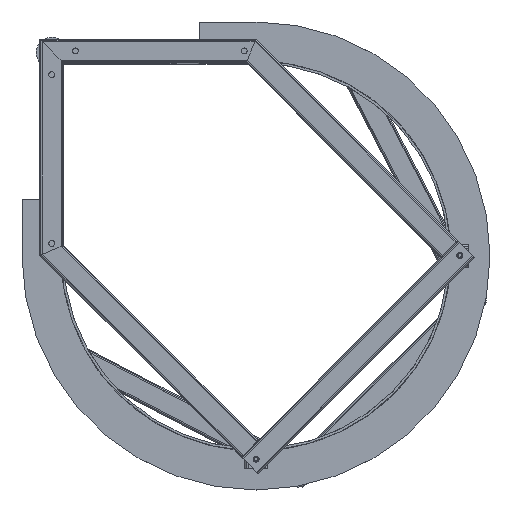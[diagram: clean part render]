
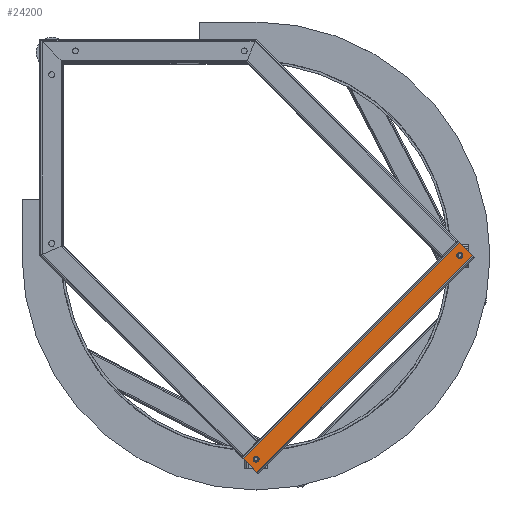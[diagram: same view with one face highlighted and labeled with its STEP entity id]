
A CAD part, top view. The second image highlights one B-rep face of the part: STEP entity #24200.
In plain terms, the highlighted planar face has unit normal (0, 0, 1).
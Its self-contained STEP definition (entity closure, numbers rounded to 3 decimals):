
#341=FACE_BOUND('',#3044,.T.);
#342=FACE_BOUND('',#3045,.T.);
#467=PLANE('',#25580);
#1705=FACE_OUTER_BOUND('',#3043,.T.);
#3043=EDGE_LOOP('',(#15766,#15767,#15768,#15769));
#3044=EDGE_LOOP('',(#15770));
#3045=EDGE_LOOP('',(#15771));
#4509=LINE('',#34891,#6801);
#4510=LINE('',#34895,#6802);
#4511=LINE('',#34897,#6803);
#4512=LINE('',#34898,#6804);
#6801=VECTOR('',#27984,10.);
#6802=VECTOR('',#27989,10.);
#6803=VECTOR('',#27990,10.);
#6804=VECTOR('',#27991,10.);
#9050=CIRCLE('',#25542,5.);
#9054=CIRCLE('',#25548,5.);
#10020=VERTEX_POINT('',#34786);
#10024=VERTEX_POINT('',#34798);
#10054=VERTEX_POINT('',#34888);
#10055=VERTEX_POINT('',#34890);
#10056=VERTEX_POINT('',#34894);
#10057=VERTEX_POINT('',#34896);
#12131=EDGE_CURVE('',#10020,#10020,#9050,.T.);
#12137=EDGE_CURVE('',#10024,#10024,#9054,.T.);
#12184=EDGE_CURVE('',#10055,#10054,#4509,.T.);
#12186=EDGE_CURVE('',#10054,#10056,#4510,.T.);
#12187=EDGE_CURVE('',#10057,#10056,#4511,.T.);
#12188=EDGE_CURVE('',#10057,#10055,#4512,.T.);
#15766=ORIENTED_EDGE('',*,*,#12186,.T.);
#15767=ORIENTED_EDGE('',*,*,#12187,.F.);
#15768=ORIENTED_EDGE('',*,*,#12188,.T.);
#15769=ORIENTED_EDGE('',*,*,#12184,.T.);
#15770=ORIENTED_EDGE('',*,*,#12131,.T.);
#15771=ORIENTED_EDGE('',*,*,#12137,.T.);
#24200=ADVANCED_FACE('',(#1705,#341,#342),#467,.T.);
#25542=AXIS2_PLACEMENT_3D('',#34787,#27878,#27879);
#25548=AXIS2_PLACEMENT_3D('',#34799,#27892,#27893);
#25580=AXIS2_PLACEMENT_3D('',#34893,#27987,#27988);
#27878=DIRECTION('center_axis',(0.,0.,
-1.));
#27879=DIRECTION('ref_axis',(0.707,-0.707,0.));
#27892=DIRECTION('center_axis',(0.,0.,
-1.));
#27893=DIRECTION('ref_axis',(0.707,-0.707,0.));
#27984=DIRECTION('',(0.707,0.707,0.));
#27987=DIRECTION('center_axis',(0.,0.,
1.));
#27988=DIRECTION('ref_axis',(-0.707,-0.707,0.));
#27989=DIRECTION('',(-0.707,0.707,0.));
#27990=DIRECTION('',(0.707,0.707,0.));
#27991=DIRECTION('',(0.707,-0.707,0.));
#34786=CARTESIAN_POINT('',(131.553,-665.553,1349.));
#34787=CARTESIAN_POINT('Origin',(135.089,-669.089,1349.));
#34798=CARTESIAN_POINT('',(475.547,-321.559,1349.));
#34799=CARTESIAN_POINT('Origin',(479.083,-325.094,1349.));
#34888=CARTESIAN_POINT('',(500.897,-325.908,1349.));
#34890=CARTESIAN_POINT('',(135.902,-690.902,1349.));
#34891=CARTESIAN_POINT('',(135.902,-690.902,1349.));
#34893=CARTESIAN_POINT('Origin',(135.902,-690.902,1349.));
#34894=CARTESIAN_POINT('',(478.269,-303.281,1349.));
#34895=CARTESIAN_POINT('',(478.269,-303.281,1349.));
#34896=CARTESIAN_POINT('',(113.275,-668.275,1349.));
#34897=CARTESIAN_POINT('',(113.275,-668.275,1349.));
#34898=CARTESIAN_POINT('',(113.275,-668.275,1349.));
